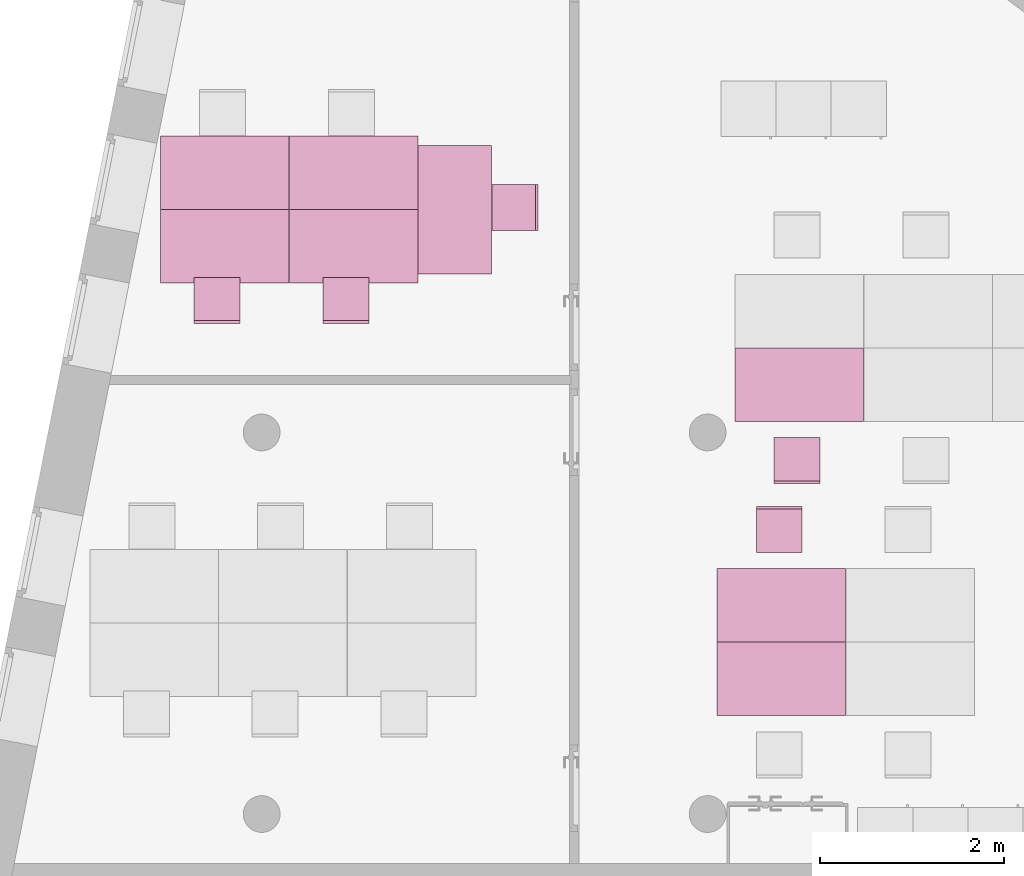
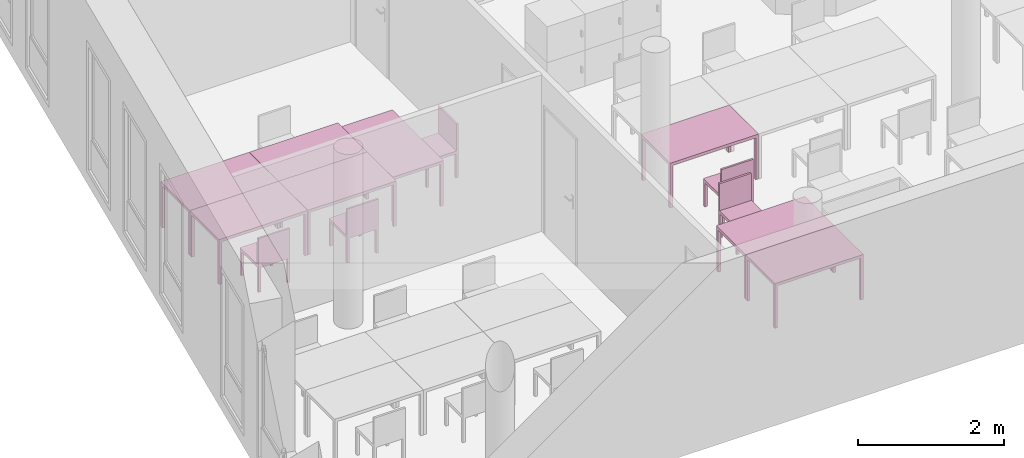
"""IFC4 building model written with IfcOpenShell, lengths in metres."""

from ifc_helpers import new_model, entity, si_unit, converted_unit, derived_unit, frame, origin, place, context, subcontext, project, spatial, faceted_brep, element, save


model = new_model("IFC4")

# Units and contexts
model_context = context("Model", 3, precision=1e-05, world=origin())
body_context = subcontext(model_context, "Body", "Model", "MODEL_VIEW")
ifc_project = project(units=[si_unit("LENGTHUNIT", "METRE"), si_unit("AREAUNIT", "SQUARE_METRE"), si_unit("VOLUMEUNIT", "CUBIC_METRE"), si_unit("MASSUNIT", "GRAM", prefix="KILO"), converted_unit("PLANEANGLEUNIT", "DEGREE", entity("IfcPlaneAngleMeasure", 0.0174532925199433), si_unit("PLANEANGLEUNIT", "RADIAN"), dimensions=[0, 0, 0, 0, 0, 0, 0]), derived_unit("THERMALTRANSMITTANCEUNIT", [(si_unit("POWERUNIT", "WATT"), 1), (si_unit("THERMODYNAMICTEMPERATUREUNIT", "KELVIN"), -1), (si_unit("LENGTHUNIT", "METRE"), -2)]), derived_unit("VOLUMETRICFLOWRATEUNIT", [(si_unit("LENGTHUNIT", "METRE"), 3), (converted_unit("TIMEUNIT", "hour", entity("IfcTimeMeasure", 3600.0), si_unit("TIMEUNIT", "SECOND"), dimensions=[0, 0, 1, 0, 0, 0, 0]), -1), (si_unit("LENGTHUNIT", "METRE"), -1)])], contexts=[model_context])

# Building, storeys
building_placement = place(None, origin())
building = spatial("IfcBuilding", under=ifc_project, at=building_placement, Name="HABITATGE PLURIFAMILIAR", CompositionType="ELEMENT")
storey_1_placement = place(building_placement, frame((0.0, 0.0, 18.29)))
storey_1 = spatial("IfcBuildingStorey", under=building, at=storey_1_placement, Name="PLANTA CINQUENA", CompositionType="ELEMENT", Elevation=18.29)
storey_2_placement = place(storey_1_placement, frame((0.0, 0.0, 15.28)))
storey_2 = spatial("IfcBuildingStorey", under=storey_1, at=storey_2_placement, Name="NOU", CompositionType="PARTIAL")

# Furniture
furniture_1_placement = place(storey_2_placement, frame((405.940836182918, 15.5193186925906, -15.28)))
element("IfcFurniture", 1, at=furniture_1_placement, inside=storey_2, Name="Taula 140X80_P5", context=body_context, shape_type="Brep", body=[
    faceted_brep([(0.04375, 0.05, 0.0), (0.0, 0.05, 0.0), (0.0, 0.0, 0.0), (0.04375, 0.0, 0.0), (0.04375, 0.0, 0.7), (0.0, 0.0, 0.7), (0.0, 0.05, 0.7), (0.04375, 0.05, 0.7)], [[[0, 1, 2, 3]], [[4, 5, 6, 7]], [[3, 4, 7, 0]], [[2, 5, 4, 3]], [[1, 6, 5, 2]], [[0, 7, 6, 1]]], orient=[[False], [False], [False], [False], [False], [False]]),
    faceted_brep([(0.04375, 0.800069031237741, 0.0), (0.0, 0.800069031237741, 0.0), (0.0, 0.750069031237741, 0.0), (0.04375, 0.750069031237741, 0.0), (0.04375, 0.750069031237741, 0.7), (0.0, 0.750069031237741, 0.7), (0.0, 0.800069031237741, 0.7), (0.04375, 0.800069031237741, 0.7)], [[[0, 1, 2, 3]], [[4, 5, 6, 7]], [[3, 4, 7, 0]], [[2, 5, 4, 3]], [[1, 6, 5, 2]], [[0, 7, 6, 1]]], orient=[[False], [False], [False], [False], [False], [False]]),
    faceted_brep([(1.39732768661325, 0.800069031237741, 0.7), (0.0, 0.800069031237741, 0.7), (0.0, 0.0, 0.7), (1.39732768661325, 0.0, 0.7), (1.39732768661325, 0.0, 0.75), (0.0, 0.0, 0.75), (0.0, 0.800069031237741, 0.75), (1.39732768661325, 0.800069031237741, 0.75)], [[[0, 1, 2, 3]], [[4, 5, 6, 7]], [[3, 4, 7, 0]], [[2, 5, 4, 3]], [[1, 6, 5, 2]], [[0, 7, 6, 1]]], orient=[[False], [False], [False], [False], [False], [False]]),
    faceted_brep([(1.39732768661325, 0.05, 0.0), (1.35357768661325, 0.05, 0.0), (1.35357768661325, 0.0, 0.0), (1.39732768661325, 0.0, 0.0), (1.39732768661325, 0.0, 0.7), (1.35357768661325, 0.0, 0.7), (1.35357768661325, 0.05, 0.7), (1.39732768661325, 0.05, 0.7)], [[[0, 1, 2, 3]], [[4, 5, 6, 7]], [[3, 4, 7, 0]], [[2, 5, 4, 3]], [[1, 6, 5, 2]], [[0, 7, 6, 1]]], orient=[[False], [False], [False], [False], [False], [False]]),
    faceted_brep([(1.39732768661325, 0.800069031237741, 0.0), (1.35357768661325, 0.800069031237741, 0.0), (1.35357768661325, 0.750069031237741, 0.0), (1.39732768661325, 0.750069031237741, 0.0), (1.39732768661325, 0.750069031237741, 0.7), (1.35357768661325, 0.750069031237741, 0.7), (1.35357768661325, 0.800069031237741, 0.7), (1.39732768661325, 0.800069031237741, 0.7)], [[[0, 1, 2, 3]], [[4, 5, 6, 7]], [[3, 4, 7, 0]], [[2, 5, 4, 3]], [[1, 6, 5, 2]], [[0, 7, 6, 1]]], orient=[[False], [False], [False], [False], [False], [False]]),
])
furniture_2_placement = place(storey_2_placement, frame((405.940836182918, 14.7192496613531, -15.28)))
element("IfcFurniture", 2, at=furniture_2_placement, inside=storey_2, Name="Taula 140X80_P5", context=body_context, shape_type="Brep", body=[
    faceted_brep([(0.04375, 0.750069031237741, 0.0), (0.04375, 0.800069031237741, 0.0), (0.0, 0.800069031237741, 0.0), (0.0, 0.750069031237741, 0.0), (0.04375, 0.800069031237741, 0.7), (0.04375, 0.750069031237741, 0.7), (0.0, 0.750069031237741, 0.7), (0.0, 0.800069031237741, 0.7)], [[[0, 1, 2, 3]], [[4, 5, 6, 7]], [[1, 0, 5, 4]], [[2, 1, 4, 7]], [[3, 2, 7, 6]], [[0, 3, 6, 5]]], orient=[[False], [False], [False], [False], [False], [False]]),
    faceted_brep([(0.04375, 0.0, 0.0), (0.04375, 0.05, 0.0), (0.0, 0.05, 0.0), (0.0, 0.0, 0.0), (0.04375, 0.05, 0.7), (0.04375, 0.0, 0.7), (0.0, 0.0, 0.7), (0.0, 0.05, 0.7)], [[[0, 1, 2, 3]], [[4, 5, 6, 7]], [[1, 0, 5, 4]], [[2, 1, 4, 7]], [[3, 2, 7, 6]], [[0, 3, 6, 5]]], orient=[[False], [False], [False], [False], [False], [False]]),
    faceted_brep([(1.39732768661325, 0.0, 0.7), (1.39732768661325, 0.800069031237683, 0.7), (0.0, 0.800069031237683, 0.7), (0.0, 0.0, 0.7), (1.39732768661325, 0.800069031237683, 0.75), (1.39732768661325, 0.0, 0.75), (0.0, 0.0, 0.75), (0.0, 0.800069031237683, 0.75)], [[[0, 1, 2, 3]], [[4, 5, 6, 7]], [[1, 0, 5, 4]], [[2, 1, 4, 7]], [[3, 2, 7, 6]], [[0, 3, 6, 5]]], orient=[[False], [False], [False], [False], [False], [False]]),
    faceted_brep([(1.39732768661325, 0.750069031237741, 0.0), (1.39732768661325, 0.800069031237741, 0.0), (1.35357768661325, 0.800069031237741, 0.0), (1.35357768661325, 0.750069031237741, 0.0), (1.39732768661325, 0.800069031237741, 0.7), (1.39732768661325, 0.750069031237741, 0.7), (1.35357768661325, 0.750069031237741, 0.7), (1.35357768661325, 0.800069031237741, 0.7)], [[[0, 1, 2, 3]], [[4, 5, 6, 7]], [[1, 0, 5, 4]], [[2, 1, 4, 7]], [[3, 2, 7, 6]], [[0, 3, 6, 5]]], orient=[[False], [False], [False], [False], [False], [False]]),
    faceted_brep([(1.39732768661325, 0.0, 0.0), (1.39732768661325, 0.05, 0.0), (1.35357768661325, 0.05, 0.0), (1.35357768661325, 0.0, 0.0), (1.39732768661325, 0.05, 0.7), (1.39732768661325, 0.0, 0.7), (1.35357768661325, 0.0, 0.7), (1.35357768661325, 0.05, 0.7)], [[[0, 1, 2, 3]], [[4, 5, 6, 7]], [[1, 0, 5, 4]], [[2, 1, 4, 7]], [[3, 2, 7, 6]], [[0, 3, 6, 5]]], orient=[[False], [False], [False], [False], [False], [False]]),
])
furniture_3_placement = place(storey_2_placement, frame((406.13406342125, 17.9193877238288, -15.28)))
element("IfcFurniture", 3, at=furniture_3_placement, inside=storey_2, Name="Taula 140X80_P5", context=body_context, shape_type="Brep", body=[
    faceted_brep([(0.04375, 0.750069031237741, 0.0), (0.04375, 0.800069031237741, 0.0), (0.0, 0.800069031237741, 0.0), (0.0, 0.750069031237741, 0.0), (0.04375, 0.800069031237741, 0.7), (0.04375, 0.750069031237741, 0.7), (0.0, 0.750069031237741, 0.7), (0.0, 0.800069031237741, 0.7)], [[[0, 1, 2, 3]], [[4, 5, 6, 7]], [[1, 0, 5, 4]], [[2, 1, 4, 7]], [[3, 2, 7, 6]], [[0, 3, 6, 5]]], orient=[[False], [False], [False], [False], [False], [False]]),
    faceted_brep([(0.04375, 0.0, 0.0), (0.04375, 0.05, 0.0), (0.0, 0.05, 0.0), (0.0, 0.0, 0.0), (0.04375, 0.05, 0.7), (0.04375, 0.0, 0.7), (0.0, 0.0, 0.7), (0.0, 0.05, 0.7)], [[[0, 1, 2, 3]], [[4, 5, 6, 7]], [[1, 0, 5, 4]], [[2, 1, 4, 7]], [[3, 2, 7, 6]], [[0, 3, 6, 5]]], orient=[[False], [False], [False], [False], [False], [False]]),
    faceted_brep([(1.39732768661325, 0.0, 0.7), (1.39732768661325, 0.800069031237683, 0.7), (0.0, 0.800069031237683, 0.7), (0.0, 0.0, 0.7), (1.39732768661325, 0.800069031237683, 0.75), (1.39732768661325, 0.0, 0.75), (0.0, 0.0, 0.75), (0.0, 0.800069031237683, 0.75)], [[[0, 1, 2, 3]], [[4, 5, 6, 7]], [[1, 0, 5, 4]], [[2, 1, 4, 7]], [[3, 2, 7, 6]], [[0, 3, 6, 5]]], orient=[[False], [False], [False], [False], [False], [False]]),
    faceted_brep([(1.39732768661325, 0.750069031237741, 0.0), (1.39732768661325, 0.800069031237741, 0.0), (1.35357768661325, 0.800069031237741, 0.0), (1.35357768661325, 0.750069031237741, 0.0), (1.39732768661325, 0.800069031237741, 0.7), (1.39732768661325, 0.750069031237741, 0.7), (1.35357768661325, 0.750069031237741, 0.7), (1.35357768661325, 0.800069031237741, 0.7)], [[[0, 1, 2, 3]], [[4, 5, 6, 7]], [[1, 0, 5, 4]], [[2, 1, 4, 7]], [[3, 2, 7, 6]], [[0, 3, 6, 5]]], orient=[[False], [False], [False], [False], [False], [False]]),
    faceted_brep([(1.39732768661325, 0.0, 0.0), (1.39732768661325, 0.05, 0.0), (1.35357768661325, 0.05, 0.0), (1.35357768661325, 0.0, 0.0), (1.39732768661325, 0.05, 0.7), (1.39732768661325, 0.0, 0.7), (1.35357768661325, 0.0, 0.7), (1.35357768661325, 0.05, 0.7)], [[[0, 1, 2, 3]], [[4, 5, 6, 7]], [[1, 0, 5, 4]], [[2, 1, 4, 7]], [[3, 2, 7, 6]], [[0, 3, 6, 5]]], orient=[[False], [False], [False], [False], [False], [False]]),
])
furniture_4_placement = place(storey_2_placement, frame((406.36586566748, 16.4960730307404, -15.2746385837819)))
element("IfcFurniture", 4, at=furniture_4_placement, inside=storey_2, Name="Cadira d'Oficina_P5", context=body_context, shape_type="Brep", body=[
    faceted_brep([(0.0, 0.0, 0.4), (0.5, 0.0, 0.4), (0.5, 0.500000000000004, 0.4), (0.0, 0.5, 0.4), (0.0, 0.5, 0.45), (0.5, 0.500000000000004, 0.45), (0.5, 0.0, 0.45), (0.0, 0.0, 0.45)], [[[0, 1, 2, 3]], [[4, 5, 6, 7]], [[3, 4, 7, 0]], [[2, 5, 4, 3]], [[1, 6, 5, 2]], [[0, 7, 6, 1]]], orient=[[False], [False], [False], [False], [False], [False]]),
    faceted_brep([(0.5, 0.460000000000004, 0.0), (0.5, 0.500000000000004, 0.0), (0.46, 0.5, 0.0), (0.46, 0.46, 0.0), (0.46, 0.46, 0.4), (0.46, 0.5, 0.4), (0.5, 0.500000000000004, 0.4), (0.5, 0.460000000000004, 0.4)], [[[0, 1, 2, 3]], [[4, 5, 6, 7]], [[3, 4, 7, 0]], [[2, 5, 4, 3]], [[1, 6, 5, 2]], [[0, 7, 6, 1]]], orient=[[False], [False], [False], [False], [False], [False]]),
    faceted_brep([(0.5, 0.0, 0.0), (0.5, 0.0400000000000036, 0.0), (0.46, 0.04, 0.0), (0.46, 0.0, 0.0), (0.46, 0.0, 0.4), (0.46, 0.04, 0.4), (0.5, 0.0400000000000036, 0.4), (0.5, 0.0, 0.4)], [[[0, 1, 2, 3]], [[4, 5, 6, 7]], [[3, 4, 7, 0]], [[2, 5, 4, 3]], [[1, 6, 5, 2]], [[0, 7, 6, 1]]], orient=[[False], [False], [False], [False], [False], [False]]),
    faceted_brep([(0.04, 0.46, 0.0), (0.04, 0.5, 0.0), (0.0, 0.5, 0.0), (0.0, 0.46, 0.0), (0.0, 0.46, 0.4), (0.0, 0.5, 0.4), (0.04, 0.5, 0.4), (0.04, 0.46, 0.4)], [[[0, 1, 2, 3]], [[4, 5, 6, 7]], [[3, 4, 7, 0]], [[2, 5, 4, 3]], [[1, 6, 5, 2]], [[0, 7, 6, 1]]], orient=[[False], [False], [False], [False], [False], [False]]),
    faceted_brep([(0.04, 0.0, 0.0), (0.04, 0.04, 0.0), (0.0, 0.04, 0.0), (0.0, 0.0, 0.0), (0.0, 0.0, 0.4), (0.0, 0.04, 0.4), (0.04, 0.04, 0.4), (0.04, 0.0, 0.4)], [[[0, 1, 2, 3]], [[4, 5, 6, 7]], [[3, 4, 7, 0]], [[2, 5, 4, 3]], [[1, 6, 5, 2]], [[0, 7, 6, 1]]], orient=[[False], [False], [False], [False], [False], [False]]),
    faceted_brep([(0.5, 0.470000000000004, 0.45), (0.5, 0.500000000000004, 0.45), (0.0, 0.5, 0.45), (0.0, 0.47, 0.45), (0.0, 0.47, 0.9), (0.0, 0.5, 0.9), (0.5, 0.500000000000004, 0.9), (0.5, 0.470000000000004, 0.9)], [[[0, 1, 2, 3]], [[4, 5, 6, 7]], [[3, 4, 7, 0]], [[2, 5, 4, 3]], [[1, 6, 5, 2]], [[0, 7, 6, 1]]], orient=[[False], [False], [False], [False], [False], [False]]),
])
furniture_5_placement = place(storey_2_placement, frame((406.559092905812, 17.2427024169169, -15.2746385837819)))
element("IfcFurniture", 5, at=furniture_5_placement, inside=storey_2, Name="Cadira d'Oficina_P5", context=body_context, shape_type="Brep", body=[
    faceted_brep([(0.0, 0.500000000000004, 0.4), (0.0, 0.0, 0.4), (0.5, 0.0, 0.4), (0.5, 0.5, 0.4), (0.0, 0.0, 0.45), (0.0, 0.500000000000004, 0.45), (0.5, 0.5, 0.45), (0.5, 0.0, 0.45)], [[[0, 1, 2, 3]], [[4, 5, 6, 7]], [[1, 0, 5, 4]], [[2, 1, 4, 7]], [[3, 2, 7, 6]], [[0, 3, 6, 5]]], orient=[[False], [False], [False], [False], [False], [False]]),
    faceted_brep([(0.5, 0.04, 0.0), (0.46, 0.0400000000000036, 0.0), (0.46, 0.0, 0.0), (0.5, 0.0, 0.0), (0.46, 0.0400000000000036, 0.4), (0.5, 0.04, 0.4), (0.5, 0.0, 0.4), (0.46, 0.0, 0.4)], [[[0, 1, 2, 3]], [[4, 5, 6, 7]], [[1, 0, 5, 4]], [[2, 1, 4, 7]], [[3, 2, 7, 6]], [[0, 3, 6, 5]]], orient=[[False], [False], [False], [False], [False], [False]]),
    faceted_brep([(0.5, 0.5, 0.0), (0.46, 0.500000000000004, 0.0), (0.46, 0.460000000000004, 0.0), (0.5, 0.46, 0.0), (0.46, 0.500000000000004, 0.4), (0.5, 0.5, 0.4), (0.5, 0.46, 0.4), (0.46, 0.460000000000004, 0.4)], [[[0, 1, 2, 3]], [[4, 5, 6, 7]], [[1, 0, 5, 4]], [[2, 1, 4, 7]], [[3, 2, 7, 6]], [[0, 3, 6, 5]]], orient=[[False], [False], [False], [False], [False], [False]]),
    faceted_brep([(0.04, 0.0400000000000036, 0.0), (0.0, 0.0400000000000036, 0.0), (0.0, 0.0, 0.0), (0.04, 0.0, 0.0), (0.0, 0.0400000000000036, 0.4), (0.04, 0.0400000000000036, 0.4), (0.04, 0.0, 0.4), (0.0, 0.0, 0.4)], [[[0, 1, 2, 3]], [[4, 5, 6, 7]], [[1, 0, 5, 4]], [[2, 1, 4, 7]], [[3, 2, 7, 6]], [[0, 3, 6, 5]]], orient=[[False], [False], [False], [False], [False], [False]]),
    faceted_brep([(0.04, 0.500000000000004, 0.0), (0.0, 0.500000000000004, 0.0), (0.0, 0.460000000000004, 0.0), (0.04, 0.460000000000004, 0.0), (0.0, 0.500000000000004, 0.4), (0.04, 0.500000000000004, 0.4), (0.04, 0.460000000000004, 0.4), (0.0, 0.460000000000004, 0.4)], [[[0, 1, 2, 3]], [[4, 5, 6, 7]], [[1, 0, 5, 4]], [[2, 1, 4, 7]], [[3, 2, 7, 6]], [[0, 3, 6, 5]]], orient=[[False], [False], [False], [False], [False], [False]]),
    faceted_brep([(0.5, 0.03, 0.45), (0.0, 0.0300000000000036, 0.45), (0.0, 0.0, 0.45), (0.5, 0.0, 0.45), (0.0, 0.0300000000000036, 0.9), (0.5, 0.03, 0.9), (0.5, 0.0, 0.9), (0.0, 0.0, 0.9)], [[[0, 1, 2, 3]], [[4, 5, 6, 7]], [[1, 0, 5, 4]], [[2, 1, 4, 7]], [[3, 2, 7, 6]], [[0, 3, 6, 5]]], orient=[[False], [False], [False], [False], [False], [False]]),
])
furniture_6_placement = place(storey_2_placement, frame((401.288477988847, 20.2242335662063, -15.28)))
element("IfcFurniture", 6, at=furniture_6_placement, inside=storey_2, Name="Taula 140X80_P5", context=body_context, shape_type="Brep", body=[
    faceted_brep([(0.04375, 0.05, 0.0), (0.0, 0.05, 0.0), (0.0, 0.0, 0.0), (0.04375, 0.0, 0.0), (0.04375, 0.0, 0.7), (0.0, 0.0, 0.7), (0.0, 0.05, 0.7), (0.04375, 0.05, 0.7)], [[[0, 1, 2, 3]], [[4, 5, 6, 7]], [[3, 4, 7, 0]], [[2, 5, 4, 3]], [[1, 6, 5, 2]], [[0, 7, 6, 1]]], orient=[[False], [False], [False], [False], [False], [False]]),
    faceted_brep([(0.04375, 0.800069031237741, 0.0), (0.0, 0.800069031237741, 0.0), (0.0, 0.750069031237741, 0.0), (0.04375, 0.750069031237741, 0.0), (0.04375, 0.750069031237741, 0.7), (0.0, 0.750069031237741, 0.7), (0.0, 0.800069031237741, 0.7), (0.04375, 0.800069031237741, 0.7)], [[[0, 1, 2, 3]], [[4, 5, 6, 7]], [[3, 4, 7, 0]], [[2, 5, 4, 3]], [[1, 6, 5, 2]], [[0, 7, 6, 1]]], orient=[[False], [False], [False], [False], [False], [False]]),
    faceted_brep([(1.39732768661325, 0.800069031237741, 0.7), (0.0, 0.800069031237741, 0.7), (0.0, 0.0, 0.7), (1.39732768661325, 0.0, 0.7), (1.39732768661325, 0.0, 0.75), (0.0, 0.0, 0.75), (0.0, 0.800069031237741, 0.75), (1.39732768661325, 0.800069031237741, 0.75)], [[[0, 1, 2, 3]], [[4, 5, 6, 7]], [[3, 4, 7, 0]], [[2, 5, 4, 3]], [[1, 6, 5, 2]], [[0, 7, 6, 1]]], orient=[[False], [False], [False], [False], [False], [False]]),
    faceted_brep([(1.39732768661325, 0.05, 0.0), (1.35357768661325, 0.05, 0.0), (1.35357768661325, 0.0, 0.0), (1.39732768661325, 0.0, 0.0), (1.39732768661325, 0.0, 0.7), (1.35357768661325, 0.0, 0.7), (1.35357768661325, 0.05, 0.7), (1.39732768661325, 0.05, 0.7)], [[[0, 1, 2, 3]], [[4, 5, 6, 7]], [[3, 4, 7, 0]], [[2, 5, 4, 3]], [[1, 6, 5, 2]], [[0, 7, 6, 1]]], orient=[[False], [False], [False], [False], [False], [False]]),
    faceted_brep([(1.39732768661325, 0.800069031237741, 0.0), (1.35357768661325, 0.800069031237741, 0.0), (1.35357768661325, 0.750069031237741, 0.0), (1.39732768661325, 0.750069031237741, 0.0), (1.39732768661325, 0.750069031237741, 0.7), (1.35357768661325, 0.750069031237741, 0.7), (1.35357768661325, 0.800069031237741, 0.7), (1.39732768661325, 0.800069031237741, 0.7)], [[[0, 1, 2, 3]], [[4, 5, 6, 7]], [[3, 4, 7, 0]], [[2, 5, 4, 3]], [[1, 6, 5, 2]], [[0, 7, 6, 1]]], orient=[[False], [False], [False], [False], [False], [False]]),
])
furniture_7_placement = place(storey_2_placement, frame((399.887298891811, 20.2242335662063, -15.28)))
element("IfcFurniture", 7, at=furniture_7_placement, inside=storey_2, Name="Taula 140X80_P5", context=body_context, shape_type="Brep", body=[
    faceted_brep([(0.04375, 0.05, 0.0), (0.0, 0.05, 0.0), (0.0, 0.0, 0.0), (0.04375, 0.0, 0.0), (0.04375, 0.0, 0.7), (0.0, 0.0, 0.7), (0.0, 0.05, 0.7), (0.04375, 0.05, 0.7)], [[[0, 1, 2, 3]], [[4, 5, 6, 7]], [[3, 4, 7, 0]], [[2, 5, 4, 3]], [[1, 6, 5, 2]], [[0, 7, 6, 1]]], orient=[[False], [False], [False], [False], [False], [False]]),
    faceted_brep([(0.04375, 0.800069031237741, 0.0), (0.0, 0.800069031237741, 0.0), (0.0, 0.750069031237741, 0.0), (0.04375, 0.750069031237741, 0.0), (0.04375, 0.750069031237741, 0.7), (0.0, 0.750069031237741, 0.7), (0.0, 0.800069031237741, 0.7), (0.04375, 0.800069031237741, 0.7)], [[[0, 1, 2, 3]], [[4, 5, 6, 7]], [[3, 4, 7, 0]], [[2, 5, 4, 3]], [[1, 6, 5, 2]], [[0, 7, 6, 1]]], orient=[[False], [False], [False], [False], [False], [False]]),
    faceted_brep([(1.39732768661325, 0.800069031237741, 0.7), (0.0, 0.800069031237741, 0.7), (0.0, 0.0, 0.7), (1.39732768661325, 0.0, 0.7), (1.39732768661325, 0.0, 0.75), (0.0, 0.0, 0.75), (0.0, 0.800069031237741, 0.75), (1.39732768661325, 0.800069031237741, 0.75)], [[[0, 1, 2, 3]], [[4, 5, 6, 7]], [[3, 4, 7, 0]], [[2, 5, 4, 3]], [[1, 6, 5, 2]], [[0, 7, 6, 1]]], orient=[[False], [False], [False], [False], [False], [False]]),
    faceted_brep([(1.39732768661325, 0.05, 0.0), (1.35357768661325, 0.05, 0.0), (1.35357768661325, 0.0, 0.0), (1.39732768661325, 0.0, 0.0), (1.39732768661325, 0.0, 0.7), (1.35357768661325, 0.0, 0.7), (1.35357768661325, 0.05, 0.7), (1.39732768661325, 0.05, 0.7)], [[[0, 1, 2, 3]], [[4, 5, 6, 7]], [[3, 4, 7, 0]], [[2, 5, 4, 3]], [[1, 6, 5, 2]], [[0, 7, 6, 1]]], orient=[[False], [False], [False], [False], [False], [False]]),
    faceted_brep([(1.39732768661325, 0.800069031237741, 0.0), (1.35357768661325, 0.800069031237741, 0.0), (1.35357768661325, 0.750069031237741, 0.0), (1.39732768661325, 0.750069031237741, 0.0), (1.39732768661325, 0.750069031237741, 0.7), (1.35357768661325, 0.750069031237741, 0.7), (1.35357768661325, 0.800069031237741, 0.7), (1.39732768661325, 0.800069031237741, 0.7)], [[[0, 1, 2, 3]], [[4, 5, 6, 7]], [[3, 4, 7, 0]], [[2, 5, 4, 3]], [[1, 6, 5, 2]], [[0, 7, 6, 1]]], orient=[[False], [False], [False], [False], [False], [False]]),
])
furniture_8_placement = place(storey_2_placement, frame((401.288477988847, 19.4241645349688, -15.28)))
element("IfcFurniture", 8, at=furniture_8_placement, inside=storey_2, Name="Taula 140X80_P5", context=body_context, shape_type="Brep", body=[
    faceted_brep([(0.04375, 0.750069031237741, 0.0), (0.04375, 0.800069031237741, 0.0), (0.0, 0.800069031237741, 0.0), (0.0, 0.750069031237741, 0.0), (0.04375, 0.800069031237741, 0.7), (0.04375, 0.750069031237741, 0.7), (0.0, 0.750069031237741, 0.7), (0.0, 0.800069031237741, 0.7)], [[[0, 1, 2, 3]], [[4, 5, 6, 7]], [[1, 0, 5, 4]], [[2, 1, 4, 7]], [[3, 2, 7, 6]], [[0, 3, 6, 5]]], orient=[[False], [False], [False], [False], [False], [False]]),
    faceted_brep([(0.04375, 0.0, 0.0), (0.04375, 0.05, 0.0), (0.0, 0.05, 0.0), (0.0, 0.0, 0.0), (0.04375, 0.05, 0.7), (0.04375, 0.0, 0.7), (0.0, 0.0, 0.7), (0.0, 0.05, 0.7)], [[[0, 1, 2, 3]], [[4, 5, 6, 7]], [[1, 0, 5, 4]], [[2, 1, 4, 7]], [[3, 2, 7, 6]], [[0, 3, 6, 5]]], orient=[[False], [False], [False], [False], [False], [False]]),
    faceted_brep([(1.39732768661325, 0.0, 0.7), (1.39732768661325, 0.800069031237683, 0.7), (0.0, 0.800069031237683, 0.7), (0.0, 0.0, 0.7), (1.39732768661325, 0.800069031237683, 0.75), (1.39732768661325, 0.0, 0.75), (0.0, 0.0, 0.75), (0.0, 0.800069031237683, 0.75)], [[[0, 1, 2, 3]], [[4, 5, 6, 7]], [[1, 0, 5, 4]], [[2, 1, 4, 7]], [[3, 2, 7, 6]], [[0, 3, 6, 5]]], orient=[[False], [False], [False], [False], [False], [False]]),
    faceted_brep([(1.39732768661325, 0.750069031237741, 0.0), (1.39732768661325, 0.800069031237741, 0.0), (1.35357768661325, 0.800069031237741, 0.0), (1.35357768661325, 0.750069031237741, 0.0), (1.39732768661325, 0.800069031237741, 0.7), (1.39732768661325, 0.750069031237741, 0.7), (1.35357768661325, 0.750069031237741, 0.7), (1.35357768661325, 0.800069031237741, 0.7)], [[[0, 1, 2, 3]], [[4, 5, 6, 7]], [[1, 0, 5, 4]], [[2, 1, 4, 7]], [[3, 2, 7, 6]], [[0, 3, 6, 5]]], orient=[[False], [False], [False], [False], [False], [False]]),
    faceted_brep([(1.39732768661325, 0.0, 0.0), (1.39732768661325, 0.05, 0.0), (1.35357768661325, 0.05, 0.0), (1.35357768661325, 0.0, 0.0), (1.39732768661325, 0.05, 0.7), (1.39732768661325, 0.0, 0.7), (1.35357768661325, 0.0, 0.7), (1.35357768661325, 0.05, 0.7)], [[[0, 1, 2, 3]], [[4, 5, 6, 7]], [[1, 0, 5, 4]], [[2, 1, 4, 7]], [[3, 2, 7, 6]], [[0, 3, 6, 5]]], orient=[[False], [False], [False], [False], [False], [False]]),
])
furniture_9_placement = place(storey_2_placement, frame((399.887298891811, 19.4241645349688, -15.28)))
element("IfcFurniture", 9, at=furniture_9_placement, inside=storey_2, Name="Taula 140X80_P5", context=body_context, shape_type="Brep", body=[
    faceted_brep([(0.04375, 0.750069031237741, 0.0), (0.04375, 0.800069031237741, 0.0), (0.0, 0.800069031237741, 0.0), (0.0, 0.750069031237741, 0.0), (0.04375, 0.800069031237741, 0.7), (0.04375, 0.750069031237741, 0.7), (0.0, 0.750069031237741, 0.7), (0.0, 0.800069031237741, 0.7)], [[[0, 1, 2, 3]], [[4, 5, 6, 7]], [[1, 0, 5, 4]], [[2, 1, 4, 7]], [[3, 2, 7, 6]], [[0, 3, 6, 5]]], orient=[[False], [False], [False], [False], [False], [False]]),
    faceted_brep([(0.04375, 0.0, 0.0), (0.04375, 0.05, 0.0), (0.0, 0.05, 0.0), (0.0, 0.0, 0.0), (0.04375, 0.05, 0.7), (0.04375, 0.0, 0.7), (0.0, 0.0, 0.7), (0.0, 0.05, 0.7)], [[[0, 1, 2, 3]], [[4, 5, 6, 7]], [[1, 0, 5, 4]], [[2, 1, 4, 7]], [[3, 2, 7, 6]], [[0, 3, 6, 5]]], orient=[[False], [False], [False], [False], [False], [False]]),
    faceted_brep([(1.39732768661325, 0.0, 0.7), (1.39732768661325, 0.800069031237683, 0.7), (0.0, 0.800069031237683, 0.7), (0.0, 0.0, 0.7), (1.39732768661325, 0.800069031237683, 0.75), (1.39732768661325, 0.0, 0.75), (0.0, 0.0, 0.75), (0.0, 0.800069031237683, 0.75)], [[[0, 1, 2, 3]], [[4, 5, 6, 7]], [[1, 0, 5, 4]], [[2, 1, 4, 7]], [[3, 2, 7, 6]], [[0, 3, 6, 5]]], orient=[[False], [False], [False], [False], [False], [False]]),
    faceted_brep([(1.39732768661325, 0.750069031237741, 0.0), (1.39732768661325, 0.800069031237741, 0.0), (1.35357768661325, 0.800069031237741, 0.0), (1.35357768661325, 0.750069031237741, 0.0), (1.39732768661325, 0.800069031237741, 0.7), (1.39732768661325, 0.750069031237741, 0.7), (1.35357768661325, 0.750069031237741, 0.7), (1.35357768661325, 0.800069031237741, 0.7)], [[[0, 1, 2, 3]], [[4, 5, 6, 7]], [[1, 0, 5, 4]], [[2, 1, 4, 7]], [[3, 2, 7, 6]], [[0, 3, 6, 5]]], orient=[[False], [False], [False], [False], [False], [False]]),
    faceted_brep([(1.39732768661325, 0.0, 0.0), (1.39732768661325, 0.05, 0.0), (1.35357768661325, 0.05, 0.0), (1.35357768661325, 0.0, 0.0), (1.39732768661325, 0.05, 0.7), (1.39732768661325, 0.0, 0.7), (1.35357768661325, 0.0, 0.7), (1.35357768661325, 0.05, 0.7)], [[[0, 1, 2, 3]], [[4, 5, 6, 7]], [[1, 0, 5, 4]], [[2, 1, 4, 7]], [[3, 2, 7, 6]], [[0, 3, 6, 5]]], orient=[[False], [False], [False], [False], [False], [False]]),
])
furniture_10_placement = place(storey_2_placement, frame((401.653047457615, 18.9860055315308, -15.2746385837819)))
element("IfcFurniture", 10, at=furniture_10_placement, inside=storey_2, Name="Cadira d'Oficina_P5", context=body_context, shape_type="Brep", body=[
    faceted_brep([(0.0, 0.5, 0.4), (0.0, 0.0, 0.4), (0.5, 0.0, 0.4), (0.5, 0.499999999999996, 0.4), (0.0, 0.0, 0.45), (0.0, 0.5, 0.45), (0.5, 0.499999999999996, 0.45), (0.5, 0.0, 0.45)], [[[0, 1, 2, 3]], [[4, 5, 6, 7]], [[1, 0, 5, 4]], [[2, 1, 4, 7]], [[3, 2, 7, 6]], [[0, 3, 6, 5]]], orient=[[False], [False], [False], [False], [False], [False]]),
    faceted_brep([(0.5, 0.0399999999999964, 0.0), (0.46, 0.04, 0.0), (0.46, 0.0, 0.0), (0.5, 0.0, 0.0), (0.46, 0.04, 0.4), (0.5, 0.0399999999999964, 0.4), (0.5, 0.0, 0.4), (0.46, 0.0, 0.4)], [[[0, 1, 2, 3]], [[4, 5, 6, 7]], [[1, 0, 5, 4]], [[2, 1, 4, 7]], [[3, 2, 7, 6]], [[0, 3, 6, 5]]], orient=[[False], [False], [False], [False], [False], [False]]),
    faceted_brep([(0.5, 0.499999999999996, 0.0), (0.46, 0.5, 0.0), (0.46, 0.46, 0.0), (0.5, 0.459999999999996, 0.0), (0.46, 0.5, 0.4), (0.5, 0.499999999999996, 0.4), (0.5, 0.459999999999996, 0.4), (0.46, 0.46, 0.4)], [[[0, 1, 2, 3]], [[4, 5, 6, 7]], [[1, 0, 5, 4]], [[2, 1, 4, 7]], [[3, 2, 7, 6]], [[0, 3, 6, 5]]], orient=[[False], [False], [False], [False], [False], [False]]),
    faceted_brep([(0.04, 0.04, 0.0), (0.0, 0.04, 0.0), (0.0, 0.0, 0.0), (0.04, 0.0, 0.0), (0.0, 0.04, 0.4), (0.04, 0.04, 0.4), (0.04, 0.0, 0.4), (0.0, 0.0, 0.4)], [[[0, 1, 2, 3]], [[4, 5, 6, 7]], [[1, 0, 5, 4]], [[2, 1, 4, 7]], [[3, 2, 7, 6]], [[0, 3, 6, 5]]], orient=[[False], [False], [False], [False], [False], [False]]),
    faceted_brep([(0.04, 0.5, 0.0), (0.0, 0.5, 0.0), (0.0, 0.46, 0.0), (0.04, 0.46, 0.0), (0.0, 0.5, 0.4), (0.04, 0.5, 0.4), (0.04, 0.46, 0.4), (0.0, 0.46, 0.4)], [[[0, 1, 2, 3]], [[4, 5, 6, 7]], [[1, 0, 5, 4]], [[2, 1, 4, 7]], [[3, 2, 7, 6]], [[0, 3, 6, 5]]], orient=[[False], [False], [False], [False], [False], [False]]),
    faceted_brep([(0.5, 0.0299999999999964, 0.45), (0.0, 0.03, 0.45), (0.0, 0.0, 0.45), (0.5, 0.0, 0.45), (0.0, 0.03, 0.9), (0.5, 0.0299999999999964, 0.9), (0.5, 0.0, 0.9), (0.0, 0.0, 0.9)], [[[0, 1, 2, 3]], [[4, 5, 6, 7]], [[1, 0, 5, 4]], [[2, 1, 4, 7]], [[3, 2, 7, 6]], [[0, 3, 6, 5]]], orient=[[False], [False], [False], [False], [False], [False]]),
])
furniture_11_placement = place(storey_2_placement, frame((400.25186836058, 18.9860055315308, -15.2746385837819)))
element("IfcFurniture", 11, at=furniture_11_placement, inside=storey_2, Name="Cadira d'Oficina_P5", context=body_context, shape_type="Brep", body=[
    faceted_brep([(0.0, 0.5, 0.4), (0.0, 0.0, 0.4), (0.5, 0.0, 0.4), (0.5, 0.499999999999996, 0.4), (0.0, 0.0, 0.45), (0.0, 0.5, 0.45), (0.5, 0.499999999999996, 0.45), (0.5, 0.0, 0.45)], [[[0, 1, 2, 3]], [[4, 5, 6, 7]], [[1, 0, 5, 4]], [[2, 1, 4, 7]], [[3, 2, 7, 6]], [[0, 3, 6, 5]]], orient=[[False], [False], [False], [False], [False], [False]]),
    faceted_brep([(0.5, 0.0399999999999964, 0.0), (0.46, 0.04, 0.0), (0.46, 0.0, 0.0), (0.5, 0.0, 0.0), (0.46, 0.04, 0.4), (0.5, 0.0399999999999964, 0.4), (0.5, 0.0, 0.4), (0.46, 0.0, 0.4)], [[[0, 1, 2, 3]], [[4, 5, 6, 7]], [[1, 0, 5, 4]], [[2, 1, 4, 7]], [[3, 2, 7, 6]], [[0, 3, 6, 5]]], orient=[[False], [False], [False], [False], [False], [False]]),
    faceted_brep([(0.5, 0.499999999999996, 0.0), (0.46, 0.5, 0.0), (0.46, 0.46, 0.0), (0.5, 0.459999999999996, 0.0), (0.46, 0.5, 0.4), (0.5, 0.499999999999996, 0.4), (0.5, 0.459999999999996, 0.4), (0.46, 0.46, 0.4)], [[[0, 1, 2, 3]], [[4, 5, 6, 7]], [[1, 0, 5, 4]], [[2, 1, 4, 7]], [[3, 2, 7, 6]], [[0, 3, 6, 5]]], orient=[[False], [False], [False], [False], [False], [False]]),
    faceted_brep([(0.04, 0.04, 0.0), (0.0, 0.04, 0.0), (0.0, 0.0, 0.0), (0.04, 0.0, 0.0), (0.0, 0.04, 0.4), (0.04, 0.04, 0.4), (0.04, 0.0, 0.4), (0.0, 0.0, 0.4)], [[[0, 1, 2, 3]], [[4, 5, 6, 7]], [[1, 0, 5, 4]], [[2, 1, 4, 7]], [[3, 2, 7, 6]], [[0, 3, 6, 5]]], orient=[[False], [False], [False], [False], [False], [False]]),
    faceted_brep([(0.04, 0.5, 0.0), (0.0, 0.5, 0.0), (0.0, 0.46, 0.0), (0.04, 0.46, 0.0), (0.0, 0.5, 0.4), (0.04, 0.5, 0.4), (0.04, 0.46, 0.4), (0.0, 0.46, 0.4)], [[[0, 1, 2, 3]], [[4, 5, 6, 7]], [[1, 0, 5, 4]], [[2, 1, 4, 7]], [[3, 2, 7, 6]], [[0, 3, 6, 5]]], orient=[[False], [False], [False], [False], [False], [False]]),
    faceted_brep([(0.5, 0.0299999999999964, 0.45), (0.0, 0.03, 0.45), (0.0, 0.0, 0.45), (0.5, 0.0, 0.45), (0.0, 0.03, 0.9), (0.5, 0.0299999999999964, 0.9), (0.5, 0.0, 0.9), (0.0, 0.0, 0.9)], [[[0, 1, 2, 3]], [[4, 5, 6, 7]], [[1, 0, 5, 4]], [[2, 1, 4, 7]], [[3, 2, 7, 6]], [[0, 3, 6, 5]]], orient=[[False], [False], [False], [False], [False], [False]]),
])
furniture_12_placement = place(storey_2_placement, frame((402.686984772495, 19.5248231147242, -15.28)))
element("IfcFurniture", 12, at=furniture_12_placement, inside=storey_2, Name="Taula 140X80_P5", context=body_context, shape_type="Brep", body=[
    faceted_brep([(0.05, 1.35357768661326, 0.0), (0.05, 1.39732768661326, 0.0), (0.0, 1.39732768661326, 0.0), (0.0, 1.35357768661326, 0.0), (0.0, 1.35357768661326, 0.7), (0.0, 1.39732768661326, 0.7), (0.05, 1.39732768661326, 0.7), (0.05, 1.35357768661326, 0.7)], [[[0, 1, 2, 3]], [[4, 5, 6, 7]], [[3, 4, 7, 0]], [[2, 5, 4, 3]], [[1, 6, 5, 2]], [[0, 7, 6, 1]]], orient=[[False], [False], [False], [False], [False], [False]]),
    faceted_brep([(0.800069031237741, 1.35357768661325, 0.0), (0.800069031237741, 1.39732768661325, 0.0), (0.750069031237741, 1.39732768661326, 0.0), (0.750069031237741, 1.35357768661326, 0.0), (0.750069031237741, 1.35357768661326, 0.7), (0.750069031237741, 1.39732768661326, 0.7), (0.800069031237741, 1.39732768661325, 0.7), (0.800069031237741, 1.35357768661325, 0.7)], [[[0, 1, 2, 3]], [[4, 5, 6, 7]], [[3, 4, 7, 0]], [[2, 5, 4, 3]], [[1, 6, 5, 2]], [[0, 7, 6, 1]]], orient=[[False], [False], [False], [False], [False], [False]]),
    faceted_brep([(0.800069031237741, 0.0, 0.7), (0.800069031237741, 1.39732768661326, 0.7), (0.0, 1.39732768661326, 0.7), (0.0, 0.0, 0.7), (0.0, 0.0, 0.75), (0.0, 1.39732768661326, 0.75), (0.800069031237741, 1.39732768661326, 0.75), (0.800069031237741, 0.0, 0.75)], [[[0, 1, 2, 3]], [[4, 5, 6, 7]], [[3, 4, 7, 0]], [[2, 5, 4, 3]], [[1, 6, 5, 2]], [[0, 7, 6, 1]]], orient=[[False], [False], [False], [False], [False], [False]]),
    faceted_brep([(0.05, 0.0, 0.0), (0.05, 0.0437500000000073, 0.0), (0.0, 0.0437500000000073, 0.0), (0.0, 0.0, 0.0), (0.0, 0.0, 0.7), (0.0, 0.0437500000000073, 0.7), (0.05, 0.0437500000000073, 0.7), (0.05, 0.0, 0.7)], [[[0, 1, 2, 3]], [[4, 5, 6, 7]], [[3, 4, 7, 0]], [[2, 5, 4, 3]], [[1, 6, 5, 2]], [[0, 7, 6, 1]]], orient=[[False], [False], [False], [False], [False], [False]]),
    faceted_brep([(0.800069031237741, 0.0, 0.0), (0.800069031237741, 0.04375, 0.0), (0.750069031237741, 0.04375, 0.0), (0.750069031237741, 0.0, 0.0), (0.750069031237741, 0.0, 0.7), (0.750069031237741, 0.04375, 0.7), (0.800069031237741, 0.04375, 0.7), (0.800069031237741, 0.0, 0.7)], [[[0, 1, 2, 3]], [[4, 5, 6, 7]], [[3, 4, 7, 0]], [[2, 5, 4, 3]], [[1, 6, 5, 2]], [[0, 7, 6, 1]]], orient=[[False], [False], [False], [False], [False], [False]]),
])
furniture_13_placement = place(storey_2_placement, frame((403.493739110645, 19.9971213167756, -15.2746385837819)))
element("IfcFurniture", 13, at=furniture_13_placement, inside=storey_2, Name="Cadira d'Oficina_P5", context=body_context, shape_type="Brep", body=[
    faceted_brep([(0.0, 0.5, 0.4), (0.0, 0.0, 0.4), (0.5, 0.0, 0.4), (0.5, 0.5, 0.4), (0.5, 0.5, 0.45), (0.5, 0.0, 0.45), (0.0, 0.0, 0.45), (0.0, 0.5, 0.45)], [[[0, 1, 2, 3]], [[4, 5, 6, 7]], [[3, 4, 7, 0]], [[2, 5, 4, 3]], [[1, 6, 5, 2]], [[0, 7, 6, 1]]], orient=[[False], [False], [False], [False], [False], [False]]),
    faceted_brep([(0.46, 0.0, 0.0), (0.5, 0.0, 0.0), (0.5, 0.04, 0.0), (0.46, 0.04, 0.0), (0.46, 0.04, 0.4), (0.5, 0.04, 0.4), (0.5, 0.0, 0.4), (0.46, 0.0, 0.4)], [[[0, 1, 2, 3]], [[4, 5, 6, 7]], [[3, 4, 7, 0]], [[2, 5, 4, 3]], [[1, 6, 5, 2]], [[0, 7, 6, 1]]], orient=[[False], [False], [False], [False], [False], [False]]),
    faceted_brep([(0.0, 0.0, 0.0), (0.04, 0.0, 0.0), (0.04, 0.04, 0.0), (0.0, 0.04, 0.0), (0.0, 0.04, 0.4), (0.04, 0.04, 0.4), (0.04, 0.0, 0.4), (0.0, 0.0, 0.4)], [[[0, 1, 2, 3]], [[4, 5, 6, 7]], [[3, 4, 7, 0]], [[2, 5, 4, 3]], [[1, 6, 5, 2]], [[0, 7, 6, 1]]], orient=[[False], [False], [False], [False], [False], [False]]),
    faceted_brep([(0.46, 0.46, 0.0), (0.5, 0.46, 0.0), (0.5, 0.5, 0.0), (0.46, 0.5, 0.0), (0.46, 0.5, 0.4), (0.5, 0.5, 0.4), (0.5, 0.46, 0.4), (0.46, 0.46, 0.4)], [[[0, 1, 2, 3]], [[4, 5, 6, 7]], [[3, 4, 7, 0]], [[2, 5, 4, 3]], [[1, 6, 5, 2]], [[0, 7, 6, 1]]], orient=[[False], [False], [False], [False], [False], [False]]),
    faceted_brep([(0.0, 0.46, 0.0), (0.04, 0.46, 0.0), (0.04, 0.5, 0.0), (0.0, 0.5, 0.0), (0.0, 0.5, 0.4), (0.04, 0.5, 0.4), (0.04, 0.46, 0.4), (0.0, 0.46, 0.4)], [[[0, 1, 2, 3]], [[4, 5, 6, 7]], [[3, 4, 7, 0]], [[2, 5, 4, 3]], [[1, 6, 5, 2]], [[0, 7, 6, 1]]], orient=[[False], [False], [False], [False], [False], [False]]),
    faceted_brep([(0.47, 0.0, 0.45), (0.5, 0.0, 0.45), (0.5, 0.5, 0.45), (0.47, 0.5, 0.45), (0.47, 0.5, 0.9), (0.5, 0.5, 0.9), (0.5, 0.0, 0.9), (0.47, 0.0, 0.9)], [[[0, 1, 2, 3]], [[4, 5, 6, 7]], [[3, 4, 7, 0]], [[2, 5, 4, 3]], [[1, 6, 5, 2]], [[0, 7, 6, 1]]], orient=[[False], [False], [False], [False], [False], [False]]),
])

save(model, "model.ifc")
